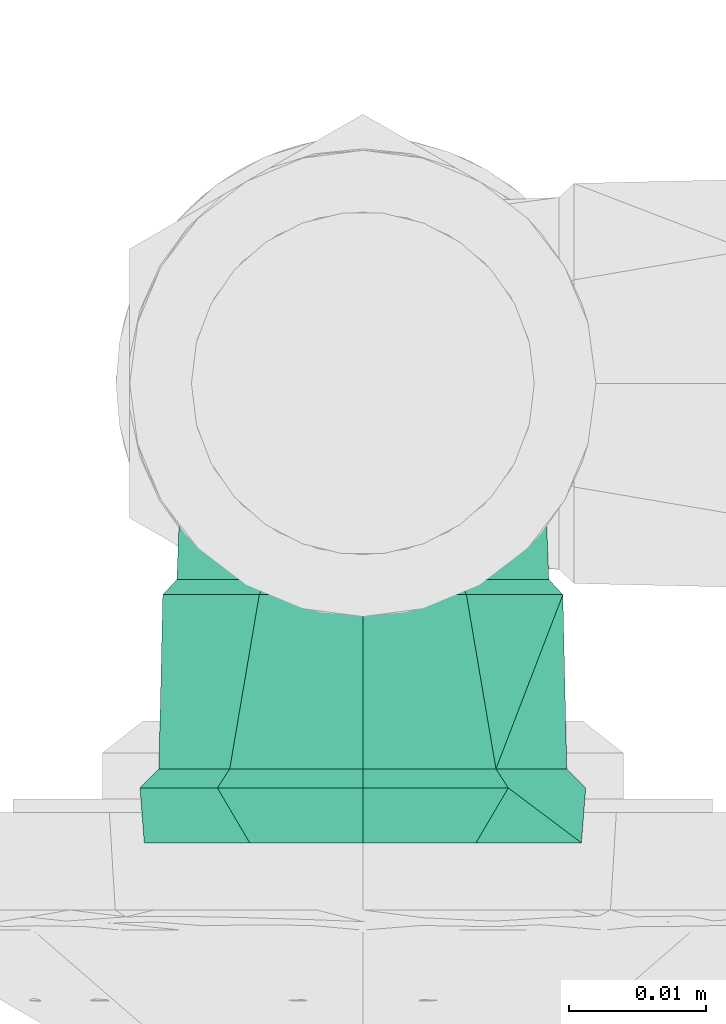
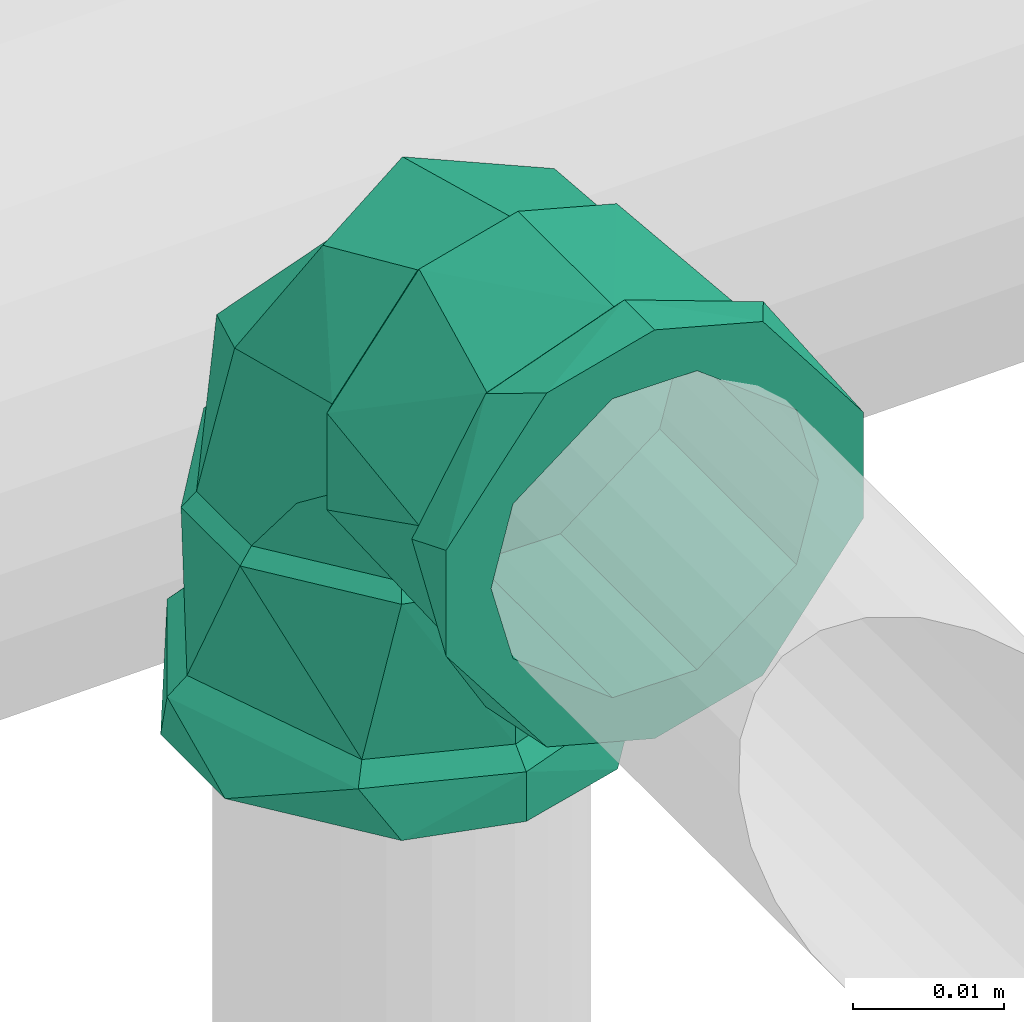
# One storey, part 348 of 589: 1 flow fitting.
"""IFC2X3 building model written with IfcOpenShell, lengths in millimetres."""

from ifc_helpers import new_model, entity, si_unit, converted_unit, derived_unit, direction, frame, origin, place, context, subcontext, project, spatial, faceted_brep, source, transform, mapped, material, type_object, type_shapes, element, save


model = new_model("IFC2X3")

# Units and contexts
model_context = context("Model", 3, precision=0.01, world=origin(), true_north=direction((6.123031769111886e-17, 1.0)))
body_context = subcontext(model_context, "Body", "Model", "MODEL_VIEW")
ifc_project = project(units=[si_unit("LENGTHUNIT", "METRE", prefix="MILLI"), si_unit("AREAUNIT", "SQUARE_METRE"), si_unit("VOLUMEUNIT", "CUBIC_METRE"), converted_unit("PLANEANGLEUNIT", "DEGREE", entity("IfcRatioMeasure", 0.017453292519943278), si_unit("PLANEANGLEUNIT", "RADIAN"), dimensions=[0, 0, 0, 0, 0, 0, 0]), si_unit("MASSUNIT", "GRAM", prefix="KILO"), derived_unit("MASSDENSITYUNIT", [(si_unit("MASSUNIT", "GRAM", prefix="KILO"), 1), (si_unit("LENGTHUNIT", "METRE"), -3)]), derived_unit("IONCONCENTRATIONUNIT", [(si_unit("MASSUNIT", "GRAM", prefix="KILO"), 1), (si_unit("LENGTHUNIT", "METRE"), -3)]), derived_unit("MOMENTOFINERTIAUNIT", [(si_unit("LENGTHUNIT", "METRE"), 4)]), si_unit("TIMEUNIT", "SECOND"), si_unit("FREQUENCYUNIT", "HERTZ"), si_unit("THERMODYNAMICTEMPERATUREUNIT", "DEGREE_CELSIUS"), derived_unit("THERMALTRANSMITTANCEUNIT", [(si_unit("MASSUNIT", "GRAM", prefix="KILO"), 1), (si_unit("THERMODYNAMICTEMPERATUREUNIT", "KELVIN"), -1), (si_unit("TIMEUNIT", "SECOND"), -3)]), derived_unit("THERMALCONDUCTANCEUNIT", [(si_unit("MASSUNIT", "GRAM", prefix="KILO"), 1), (si_unit("THERMODYNAMICTEMPERATUREUNIT", "KELVIN"), -1), (si_unit("TIMEUNIT", "SECOND"), -3), (si_unit("LENGTHUNIT", "METRE"), 1)]), derived_unit("VOLUMETRICFLOWRATEUNIT", [(si_unit("LENGTHUNIT", "METRE"), 3), (si_unit("TIMEUNIT", "SECOND"), -1)]), derived_unit("MASSFLOWRATEUNIT", [(si_unit("MASSUNIT", "GRAM", prefix="KILO"), 1), (si_unit("TIMEUNIT", "SECOND"), -1)]), derived_unit("ROTATIONALFREQUENCYUNIT", [(si_unit("TIMEUNIT", "SECOND"), -1)]), si_unit("ELECTRICCURRENTUNIT", "AMPERE"), si_unit("ELECTRICVOLTAGEUNIT", "VOLT"), si_unit("POWERUNIT", "WATT"), si_unit("FORCEUNIT", "NEWTON", prefix="KILO"), si_unit("ILLUMINANCEUNIT", "LUX"), si_unit("LUMINOUSFLUXUNIT", "LUMEN"), si_unit("LUMINOUSINTENSITYUNIT", "CANDELA"), derived_unit("USERDEFINED", [(si_unit("MASSUNIT", "GRAM", prefix="KILO"), -1), (si_unit("LENGTHUNIT", "METRE"), -2), (si_unit("TIMEUNIT", "SECOND"), 3), (si_unit("LUMINOUSFLUXUNIT", "LUMEN"), 1)]), derived_unit("USERDEFINED", [(si_unit("MASSUNIT", "GRAM", prefix="KILO"), 1), (si_unit("TIMEUNIT", "SECOND"), -3), (si_unit("LENGTHUNIT", "METRE"), 3), (si_unit("ELECTRICCURRENTUNIT", "AMPERE"), -2)]), derived_unit("SOUNDPOWERUNIT", [(si_unit("MASSUNIT", "GRAM", prefix="KILO"), 1), (si_unit("TIMEUNIT", "SECOND"), -3), (si_unit("LENGTHUNIT", "METRE"), 2)]), derived_unit("SOUNDPRESSUREUNIT", [(si_unit("MASSUNIT", "GRAM", prefix="KILO"), 1), (si_unit("LENGTHUNIT", "METRE"), -1), (si_unit("TIMEUNIT", "SECOND"), -2)]), derived_unit("LINEARVELOCITYUNIT", [(si_unit("LENGTHUNIT", "METRE"), 1), (si_unit("TIMEUNIT", "SECOND"), -1)]), si_unit("PRESSUREUNIT", "PASCAL"), derived_unit("USERDEFINED", [(si_unit("MASSUNIT", "GRAM", prefix="KILO"), 1), (si_unit("LENGTHUNIT", "METRE"), -2), (si_unit("TIMEUNIT", "SECOND"), -2)]), derived_unit("LINEARFORCEUNIT", [(si_unit("MASSUNIT", "GRAM", prefix="KILO"), 1), (si_unit("TIMEUNIT", "SECOND"), -2)]), derived_unit("PLANARFORCEUNIT", [(si_unit("MASSUNIT", "GRAM", prefix="KILO"), 1), (si_unit("LENGTHUNIT", "METRE"), -1), (si_unit("TIMEUNIT", "SECOND"), -2)]), derived_unit("SPECIFICHEATCAPACITYUNIT", [(si_unit("THERMODYNAMICTEMPERATUREUNIT", "KELVIN"), -1), (si_unit("LENGTHUNIT", "METRE"), 2), (si_unit("TIMEUNIT", "SECOND"), -2)]), derived_unit("HEATINGVALUEUNIT", [(si_unit("LENGTHUNIT", "METRE"), 2), (si_unit("TIMEUNIT", "SECOND"), -2)]), derived_unit("VAPORPERMEABILITYUNIT", [(si_unit("LENGTHUNIT", "METRE"), -1), (si_unit("TIMEUNIT", "SECOND"), 1)]), derived_unit("DYNAMICVISCOSITYUNIT", [(si_unit("MASSUNIT", "GRAM", prefix="KILO"), 1), (si_unit("TIMEUNIT", "SECOND"), -1), (si_unit("LENGTHUNIT", "METRE"), -1)]), derived_unit("THERMALEXPANSIONCOEFFICIENTUNIT", [(si_unit("THERMODYNAMICTEMPERATUREUNIT", "KELVIN"), -1)]), derived_unit("MODULUSOFELASTICITYUNIT", [(si_unit("MASSUNIT", "GRAM", prefix="KILO"), 1), (si_unit("LENGTHUNIT", "METRE"), -1), (si_unit("TIMEUNIT", "SECOND"), -2)]), derived_unit("ISOTHERMALMOISTURECAPACITYUNIT", [(si_unit("LENGTHUNIT", "METRE"), 3), (si_unit("MASSUNIT", "GRAM", prefix="KILO"), -1)]), derived_unit("MOISTUREDIFFUSIVITYUNIT", [(si_unit("TIMEUNIT", "SECOND"), -1), (si_unit("LENGTHUNIT", "METRE"), 2)])], contexts=[model_context])

# Site, building, storey
site_placement = place(None, origin())
site = spatial("IfcSite", under=ifc_project, at=site_placement, Name="Default", CompositionType="ELEMENT")
building_placement = place(site_placement, origin())
building = spatial("IfcBuilding", under=site, at=building_placement, CompositionType="ELEMENT")
storey_placement = place(building_placement, frame((0.0, 0.0, 100.0)))
storey = spatial("IfcBuildingStorey", under=building, at=storey_placement, Name="TÉRREO", CompositionType="ELEMENT", Elevation=100.0)

# Flow fitting
ifc_material = material(Name="PVC Marrom")
pipe_fitting_type = type_object("IfcPipeFittingType", Name="PVC Marrom Soldável_Joelho 45°_90°_Rodrigo MEP:Joelho", PredefinedType="NOTDEFINED", material=ifc_material)
shared_shape = source(origin(), body_context, "Body", "Brep", [
    faceted_brep([(3.908167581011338, 15.40000000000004, 14.585479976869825), (13.076983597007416, 15.40000000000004, 7.549999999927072), (15.099999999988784, 15.40000000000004, 0.0), (13.076983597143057, 15.40000000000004, -7.55000000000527), (3.9081675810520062, 15.40000000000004, -14.585479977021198), (-3.9081675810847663, 15.40000000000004, -14.585479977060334), (-13.076983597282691, 15.40000000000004, -7.550000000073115), (-15.100000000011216, 15.40000000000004, 0.0), (-13.076983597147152, 15.40000000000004, 7.549999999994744), (-3.908167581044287, 15.40000000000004, 14.585479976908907), (-3.633819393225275, 14.30000000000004, 13.561598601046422), (-12.158996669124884, 14.30000000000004, 7.0199999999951), (-14.040000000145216, 14.30000000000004, 0.0), (-12.158996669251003, 14.30000000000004, -7.020000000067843), (-3.6338193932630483, 14.30000000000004, -13.561598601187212), (3.6338193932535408, 14.30000000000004, -13.561598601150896), (12.158996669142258, 14.30000000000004, -7.020000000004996), (14.039999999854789, 14.30000000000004, 0.0), (12.158996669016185, 14.30000000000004, 7.0199999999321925), (3.6338193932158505, 14.30000000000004, 13.561598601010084)], [[[0, 1, 2, 3, 4, 5, 6, 7, 8, 9]], [[10, 11, 12, 13, 14, 15, 16, 17, 18, 19]], [[3, 17, 16]], [[4, 3, 16, 15]], [[3, 2, 17]], [[15, 14, 5, 4]], [[6, 5, 14, 13]], [[7, 13, 12]], [[7, 6, 13]], [[8, 12, 11]], [[9, 8, 11, 10]], [[8, 7, 12]], [[10, 19, 0, 9]], [[1, 0, 19, 18]], [[2, 18, 17]], [[2, 1, 18]]]),
    faceted_brep([(-15.399999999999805, 3.908167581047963, 14.585479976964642), (-15.399999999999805, 13.076983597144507, 7.549999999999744), (-15.399999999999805, 15.100000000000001, 0.0), (-15.399999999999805, 13.076983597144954, -7.54999999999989), (-15.399999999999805, 3.9081675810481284, -14.58547997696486), (-15.399999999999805, -3.9081675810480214, -14.585479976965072), (-15.399999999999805, -13.0769835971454, -7.550000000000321), (-15.399999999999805, -15.099999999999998, 0.0), (-15.399999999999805, -13.076983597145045, 7.550000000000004), (-15.399999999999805, -3.908167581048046, 14.585479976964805), (-14.299999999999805, 12.158996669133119, 7.019999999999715), (-14.299999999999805, 3.6338193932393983, 13.561598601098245), (-14.299999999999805, -3.633819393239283, 13.56159860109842), (-14.299999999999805, -12.15899666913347, 7.020000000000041), (-14.299999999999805, -14.040000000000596, 0.0), (-14.299999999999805, -12.158996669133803, -7.020000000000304), (-14.299999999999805, -3.63381939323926, -13.561598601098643), (-14.299999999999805, 3.6338193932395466, -13.56159860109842), (-14.299999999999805, 12.158996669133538, -7.019999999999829), (-14.299999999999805, 14.03999999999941, 0.0)], [[[0, 1, 2, 3, 4, 5, 6, 7, 8, 9]], [[10, 11, 12, 13, 14, 15, 16, 17, 18, 19]], [[3, 2, 19, 18]], [[4, 3, 18, 17]], [[17, 16, 5, 4]], [[6, 5, 16, 15]], [[7, 6, 15, 14]], [[8, 7, 14, 13]], [[9, 8, 13, 12]], [[12, 11, 0, 9]], [[1, 0, 11, 10]], [[2, 1, 10, 19]]]),
    faceted_brep([(-33.4999999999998, -4.2705142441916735, -15.937776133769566), (-33.4999999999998, -6.250000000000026, -10.825317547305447), (-33.4999999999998, 0.0, -12.5), (-33.4999999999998, -14.289419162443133, -8.25000000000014), (-33.4999999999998, 4.270514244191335, -15.937776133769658), (-33.4999999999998, -12.074072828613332, -3.23523806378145), (-33.4999999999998, -16.499999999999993, 0.0), (-33.4999999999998, -12.074072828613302, 3.2352380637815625), (-33.4999999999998, -14.289419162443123, 8.249999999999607), (-33.4999999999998, -6.249999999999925, 10.825317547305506), (-33.4999999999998, -4.27051424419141, 15.937776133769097), (-33.4999999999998, 0.0, 12.5), (-33.4999999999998, 4.270514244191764, 15.937776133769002), (-33.4999999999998, 6.249999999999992, 10.825317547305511), (-33.4999999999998, 14.28941916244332, 8.249999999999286), (-33.4999999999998, 12.074072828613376, 3.2352380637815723), (-33.4999999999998, 16.500000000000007, 0.0), (-33.4999999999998, 12.074072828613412, -3.235238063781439), (-33.4999999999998, 14.289419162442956, -8.250000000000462), (-33.4999999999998, 6.250000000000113, -10.82531754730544), (-29.499999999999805, 16.5, 0.0), (-29.500000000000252, 12.639142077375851, 10.606700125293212), (-29.50000000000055, 2.8633833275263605, 16.249647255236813), (-29.50000000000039, -12.64180232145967, 10.603529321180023), (-29.499999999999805, -16.499999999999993, 0.0), (-29.500000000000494, -4.889209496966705, 13.426588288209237), (-29.49999999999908, -12.641802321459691, -10.603529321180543), (-29.49999999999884, -2.8674593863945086, -16.24892847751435), (-29.499999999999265, 12.639142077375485, -10.606700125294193), (-29.499999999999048, 4.885841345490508, -13.427814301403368), (-28.099999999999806, -15.099999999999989, 0.0), (-28.10000000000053, -11.56916454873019, 9.703835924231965), (-28.100000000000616, -4.474367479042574, 12.287362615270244), (-28.1000000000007, 2.6204295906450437, 14.870889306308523), (-28.100000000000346, 11.566730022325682, 9.706737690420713), (-28.09999999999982, 15.099999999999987, 0.0), (-28.099999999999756, 11.566730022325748, -9.706737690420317), (-28.09999999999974, 4.4712851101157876, -12.28848460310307), (-28.09999999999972, -2.6241598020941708, -14.870231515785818), (-28.09999999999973, -11.569164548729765, -9.703835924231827), (-15.399999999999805, 0.0, -12.5), (-15.399999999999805, -6.250000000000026, -10.825317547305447), (-15.399999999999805, -3.908167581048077, -14.585479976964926), (-15.399999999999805, 3.9081675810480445, -14.585479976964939), (-15.399999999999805, 6.250000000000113, -10.82531754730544), (-15.399999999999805, -13.076983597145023, -7.549999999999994), (-15.399999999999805, -12.074072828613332, -3.23523806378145), (-15.399999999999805, -15.099999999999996, 0.0), (-15.399999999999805, -12.074072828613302, 3.2352380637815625), (-15.399999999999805, -13.076983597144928, 7.550000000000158), (-15.399999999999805, -6.249999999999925, 10.825317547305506), (-15.399999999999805, -3.9081675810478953, 14.585479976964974), (-15.399999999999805, 0.0, 12.5), (-15.399999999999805, 3.9081675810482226, 14.58547997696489), (-15.399999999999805, 6.249999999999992, 10.825317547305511), (-15.399999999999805, 13.076983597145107, 7.549999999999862), (-15.399999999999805, 12.074072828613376, 3.2352380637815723), (-15.399999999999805, 15.100000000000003, 0.0), (-15.399999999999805, 12.074072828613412, -3.235238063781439), (-15.399999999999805, 13.076983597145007, -7.550000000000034)], [[[0, 1, 2]], [[1, 0, 3]], [[2, 4, 0]], [[3, 5, 1]], [[3, 6, 5]], [[5, 6, 7]], [[8, 7, 6]], [[7, 8, 9]], [[10, 9, 8]], [[9, 10, 11]], [[11, 10, 12]], [[12, 13, 11]], [[14, 13, 12]], [[13, 14, 15]], [[16, 15, 14]], [[16, 17, 15]], [[18, 17, 16]], [[19, 17, 18]], [[19, 18, 4]], [[4, 2, 19]], [[16, 14, 20]], [[14, 21, 20]], [[21, 14, 12]], [[21, 12, 22]], [[23, 10, 8]], [[24, 8, 6]], [[10, 23, 25, 22]], [[23, 8, 24]], [[10, 22, 12]], [[6, 3, 24]], [[3, 26, 24]], [[26, 3, 0]], [[26, 0, 27]], [[28, 4, 18]], [[20, 18, 16]], [[4, 28, 29, 27]], [[28, 18, 20]], [[4, 27, 0]], [[30, 31, 23, 24]], [[31, 32, 33, 22, 25, 23]], [[34, 35, 20, 21]], [[34, 21, 22, 33]], [[35, 36, 28, 20]], [[36, 37, 38, 27, 29, 28]], [[39, 30, 24, 26]], [[39, 26, 27, 38]], [[40, 41, 42]], [[42, 43, 40]], [[44, 40, 43]], [[45, 42, 41]], [[41, 46, 45]], [[46, 47, 45]], [[48, 47, 46]], [[47, 48, 49]], [[50, 49, 48]], [[49, 50, 51]], [[52, 51, 50]], [[53, 51, 52]], [[52, 54, 53]], [[53, 54, 55]], [[56, 55, 54]], [[55, 56, 57]], [[56, 58, 57]], [[59, 58, 44]], [[57, 58, 59]], [[43, 59, 44]], [[35, 34, 55]], [[35, 55, 57]], [[55, 34, 53]], [[34, 33, 53]], [[51, 33, 32, 31]], [[49, 31, 30]], [[31, 49, 51]], [[49, 30, 47]], [[33, 51, 53]], [[30, 39, 45]], [[30, 45, 47]], [[45, 39, 42]], [[39, 38, 42]], [[43, 38, 37, 36]], [[59, 36, 35]], [[36, 59, 43]], [[59, 35, 57]], [[38, 43, 42]], [[9, 11, 52, 50]], [[7, 9, 50, 48]], [[48, 46, 5, 7]], [[1, 5, 46, 41]], [[2, 1, 41, 40]], [[19, 2, 40, 44]], [[17, 19, 44, 58]], [[58, 56, 15, 17]], [[13, 15, 56, 54]], [[11, 13, 54, 52]]]),
    faceted_brep([(-14.299999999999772, -3.6338193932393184, -13.561598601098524), (-14.299999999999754, -12.158996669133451, -7.020000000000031), (-14.29999999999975, -14.039999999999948, 0.0), (-14.299999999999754, -12.158996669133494, 7.019999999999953), (-14.299999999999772, -3.6338193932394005, 13.561598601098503), (-14.299999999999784, 3.633819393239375, 13.561598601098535), (-14.299999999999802, 12.158996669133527, 7.0200000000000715), (-14.299999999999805, 14.04000000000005, 0.0), (-14.299999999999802, 12.158996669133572, -7.019999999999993), (-14.299999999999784, 3.63381939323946, -13.561598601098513), (3.633819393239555, 14.29999999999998, -13.561598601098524), (-3.633819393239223, 14.300000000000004, -13.561598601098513), (-12.158996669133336, 14.300000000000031, -7.019999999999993), (-14.039999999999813, 14.300000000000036, 0.0), (-12.158996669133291, 14.300000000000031, 7.0200000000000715), (-3.6338193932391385, 14.300000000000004, 13.561598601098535), (3.6338193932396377, 14.29999999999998, 13.561598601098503), (12.158996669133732, 14.299999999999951, 7.019999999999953), (14.040000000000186, 14.299999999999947, 0.0), (12.158996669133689, 14.299999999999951, -7.020000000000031), (-0.45476175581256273, 0.4547603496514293, 13.009299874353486), (-4.991226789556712, -9.102895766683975, 8.866254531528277), (-2.689013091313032, -7.336393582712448, 0.0), (3.7770734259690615, -3.6031967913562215, 0.0), (9.09033094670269, 4.905775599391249, 8.841582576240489), (10.243159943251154, 0.13000000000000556, 0.0), (-14.116152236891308, 14.116152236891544, 0.0), (-8.296884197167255, 8.29688403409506, 12.78130953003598), (-0.454761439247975, 0.45476027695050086, -13.009299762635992), (-8.296884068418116, 8.296883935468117, -12.78130960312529), (9.090330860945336, 4.90577564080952, -8.84158269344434), (-4.991226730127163, -9.10289574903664, -8.866254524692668)], [[[0, 1, 2, 3, 4, 5, 6, 7, 8, 9]], [[10, 11, 12, 13, 14, 15, 16, 17, 18, 19]], [[4, 20, 5]], [[21, 3, 22]], [[20, 4, 21]], [[21, 22, 23]], [[17, 24, 25]], [[26, 6, 14]], [[23, 20, 21]], [[26, 7, 6]], [[6, 5, 27]], [[3, 2, 22]], [[20, 23, 24]], [[25, 18, 17]], [[20, 27, 5]], [[16, 20, 24]], [[17, 16, 24]], [[6, 27, 14]], [[26, 14, 13]], [[21, 4, 3]], [[27, 15, 14]], [[27, 20, 15]], [[23, 25, 24]], [[15, 20, 16]], [[8, 7, 26]], [[28, 29, 11]], [[28, 10, 30]], [[8, 12, 29]], [[31, 22, 1]], [[31, 23, 22]], [[28, 9, 29]], [[19, 30, 10]], [[0, 28, 31]], [[1, 22, 2]], [[8, 26, 12]], [[12, 11, 29]], [[8, 29, 9]], [[31, 1, 0]], [[10, 28, 11]], [[30, 19, 25]], [[0, 9, 28]], [[19, 18, 25]], [[25, 23, 30]], [[23, 31, 28]], [[30, 23, 28]], [[12, 26, 13]]]),
    faceted_brep([(0.0, 15.40000000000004, -12.5), (-6.249999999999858, 15.40000000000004, -10.825317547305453), (-3.908167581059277, 15.40000000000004, -14.585479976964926), (3.9081675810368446, 15.40000000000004, -14.585479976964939), (6.250000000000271, 15.40000000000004, -10.82531754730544), (-13.076983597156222, 15.40000000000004, -7.549999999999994), (-12.07407282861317, 15.40000000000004, -3.235238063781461), (-15.100000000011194, 15.40000000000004, 0.0), (-12.074072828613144, 15.40000000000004, 3.2352380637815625), (-13.076983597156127, 15.40000000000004, 7.550000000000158), (-6.249999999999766, 15.40000000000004, 10.825317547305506), (-3.9081675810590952, 15.40000000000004, 14.585479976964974), (0.0, 15.40000000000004, 12.5), (3.9081675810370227, 15.40000000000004, 14.58547997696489), (6.250000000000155, 15.40000000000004, 10.825317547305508), (13.076983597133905, 15.40000000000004, 7.549999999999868), (12.074072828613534, 15.40000000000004, 3.2352380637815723), (15.099999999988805, 15.40000000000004, 0.0), (12.07407282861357, 15.40000000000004, -3.235238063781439), (13.07698359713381, 15.40000000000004, -7.550000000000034), (15.099999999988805, 28.10000000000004, 0.0), (11.56673002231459, 28.100000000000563, 9.706737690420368), (4.471285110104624, 28.10000000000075, 12.288484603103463), (-2.624159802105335, 28.100000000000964, 14.870231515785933), (-11.569164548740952, 28.10000000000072, 9.703835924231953), (-15.100000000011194, 28.10000000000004, 0.0), (-11.569164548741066, 28.10000000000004, -9.703835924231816), (-4.474367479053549, 28.10000000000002, -12.287362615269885), (2.6204295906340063, 28.099999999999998, -14.870889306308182), (11.566730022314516, 28.10000000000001, -9.706737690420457), (-12.639142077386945, 29.50000000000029, 10.606700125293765), (-16.50000000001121, 29.500000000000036, 0.0), (-2.8633833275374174, 29.50000000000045, 16.249647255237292), (12.641802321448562, 29.500000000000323, 10.603529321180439), (4.889209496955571, 29.500000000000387, 13.426588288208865), (16.499999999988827, 29.50000000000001, 0.0), (12.64180232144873, 29.500000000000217, -10.603529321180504), (2.867459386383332, 29.500000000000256, -16.24892847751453), (-12.639142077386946, 29.500000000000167, -10.606700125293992), (-4.885841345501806, 29.500000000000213, -13.427814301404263), (-4.270514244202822, 33.50000000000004, -15.937776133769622), (-6.249999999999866, 33.50000000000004, -10.825317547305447), (0.0, 33.50000000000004, -12.5), (-14.289419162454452, 33.50000000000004, -8.249999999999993), (4.270514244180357, 33.50000000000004, -15.937776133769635), (-12.074072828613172, 33.50000000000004, -3.23523806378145), (-16.50000000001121, 33.50000000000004, 0.0), (-12.074072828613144, 33.50000000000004, 3.2352380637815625), (-14.28941916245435, 33.50000000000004, 8.250000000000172), (-6.2499999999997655, 33.50000000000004, 10.825317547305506), (-4.270514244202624, 33.50000000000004, 15.937776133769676), (0.0, 33.50000000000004, 12.5), (4.270514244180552, 33.50000000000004, 15.937776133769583), (6.250000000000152, 33.50000000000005, 10.825317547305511), (14.289419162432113, 33.50000000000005, 8.249999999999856), (12.074072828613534, 33.50000000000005, 3.2352380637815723), (16.49999999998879, 33.50000000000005, 0.0), (12.07407282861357, 33.50000000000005, -3.235238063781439), (14.289419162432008, 33.50000000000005, -8.250000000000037), (6.250000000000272, 33.50000000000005, -10.82531754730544)], [[[0, 1, 2]], [[2, 3, 0]], [[4, 0, 3]], [[5, 2, 1]], [[1, 6, 5]], [[6, 7, 5]], [[8, 7, 6]], [[7, 8, 9]], [[10, 9, 8]], [[9, 10, 11]], [[12, 11, 10]], [[13, 11, 12]], [[12, 14, 13]], [[13, 14, 15]], [[16, 15, 14]], [[15, 16, 17]], [[16, 18, 17]], [[19, 18, 4]], [[17, 18, 19]], [[3, 19, 4]], [[20, 21, 15]], [[20, 15, 17]], [[15, 21, 13]], [[13, 21, 22, 23]], [[11, 23, 24]], [[9, 24, 25]], [[24, 9, 11]], [[9, 25, 7]], [[23, 11, 13]], [[25, 26, 5]], [[25, 5, 7]], [[5, 26, 2]], [[2, 26, 27, 28]], [[3, 28, 29]], [[19, 29, 20]], [[29, 19, 3]], [[19, 20, 17]], [[28, 3, 2]], [[24, 23, 30]], [[25, 24, 31]], [[31, 24, 30]], [[23, 32, 30]], [[21, 20, 33]], [[21, 33, 34]], [[22, 32, 23]], [[35, 33, 20]], [[32, 22, 34]], [[22, 21, 34]], [[20, 29, 36]], [[36, 35, 20]], [[37, 36, 29]], [[38, 39, 27]], [[29, 28, 37]], [[26, 25, 31]], [[38, 27, 26]], [[38, 26, 31]], [[28, 39, 37]], [[39, 28, 27]], [[40, 41, 42]], [[41, 40, 43]], [[42, 44, 40]], [[43, 45, 41]], [[43, 46, 45]], [[45, 46, 47]], [[48, 47, 46]], [[47, 48, 49]], [[50, 49, 48]], [[49, 50, 51]], [[51, 50, 52]], [[52, 53, 51]], [[54, 53, 52]], [[53, 54, 55]], [[56, 55, 54]], [[56, 57, 55]], [[58, 57, 56]], [[59, 57, 58]], [[59, 58, 44]], [[44, 42, 59]], [[56, 54, 35]], [[54, 33, 35]], [[33, 54, 52]], [[52, 32, 34, 33]], [[30, 50, 48]], [[31, 48, 46]], [[50, 30, 32]], [[30, 48, 31]], [[50, 32, 52]], [[46, 43, 31]], [[43, 38, 31]], [[38, 43, 40]], [[40, 37, 39, 38]], [[36, 44, 58]], [[35, 58, 56]], [[44, 36, 37]], [[36, 58, 35]], [[44, 37, 40]], [[49, 51, 12, 10]], [[47, 49, 10, 8]], [[8, 6, 45, 47]], [[41, 45, 6, 1]], [[42, 41, 1, 0]], [[59, 42, 0, 4]], [[57, 59, 4, 18]], [[18, 16, 55, 57]], [[53, 55, 16, 14]], [[51, 53, 14, 12]]]),
])
type_shapes(pipe_fitting_type, [shared_shape])
flow_fitting_placement = place(storey_placement, frame((-7362.272959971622, -4322.125782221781, 2970.0), z_axis=(1.0, 0.0, 0.0), x_axis=(0.0, 0.0, 1.0)))
element("IfcFlowFitting", 1, at=flow_fitting_placement, inside=storey, type_object=pipe_fitting_type, material=ifc_material, Name="PVC Marrom Soldável_Joelho 45°_90°_Rodrigo MEP:Joelho", ObjectType="PVC Marrom Soldável_Joelho 45°_90°_Rodrigo MEP:Joelho", context=body_context, shape_type="MappedRepresentation", body=[
    mapped(shared_shape, transform((0.0, 0.0, 0.0), scale=1.0)),
])

save(model, "model.ifc")
